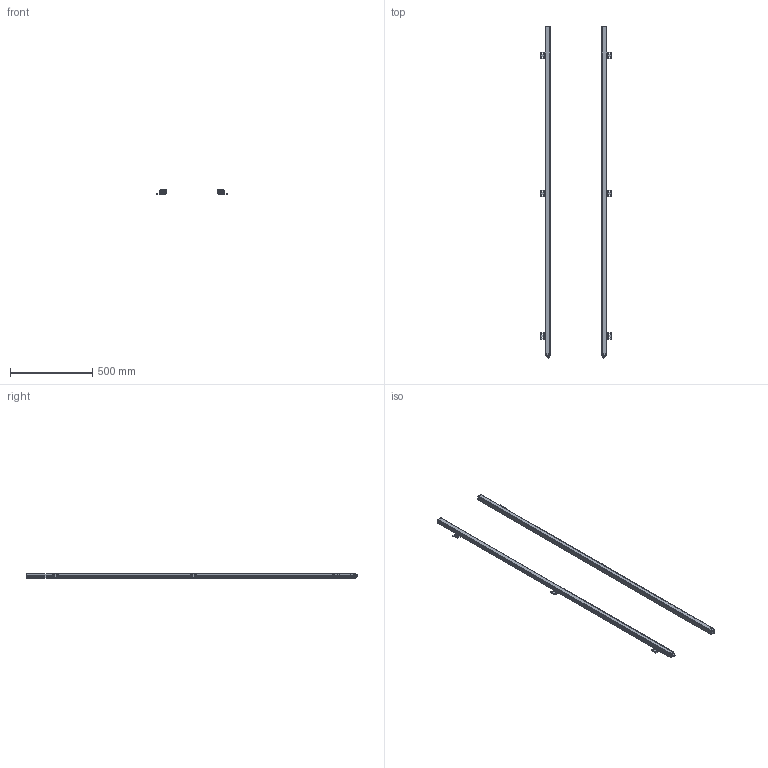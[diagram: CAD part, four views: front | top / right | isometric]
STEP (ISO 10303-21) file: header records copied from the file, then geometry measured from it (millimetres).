
FILE_DESCRIPTION(('STEP AP242'),'1');
FILE_NAME('1310793.stp','2024-02-07T10:05:45',('TraceParts'),('TraceParts S.A.'),'Spatial InterOp 3D',' ',' ');
FILE_SCHEMA(('AP242_MANAGED_MODEL_BASED_3D_ENGINEERING_MIM_LF {1 0 10303 442 1 1 4}'));
Length unit declared in the file: millimetre
Products named in the file (1): 1310793_1
Bounding box: 430.76 x 2013 x 29.33 mm (x, y, z)
Volume: 3149304.3 mm3; surface area: 880560.5 mm2
Topology: 62 solids, 62 shells, 1772 faces, 4774 edges, 3172 vertices
Faces by surface type: cylinder 1032, plane 708, torus 32
Entity records: 57863 total; most frequent: DIRECTION 10470, CARTESIAN_POINT 10356, ORIENTED_EDGE 9548, EDGE_CURVE 4774, AXIS2_PLACEMENT_3D 3930, VERTEX_POINT 3172, LINE 2610, VECTOR 2610
